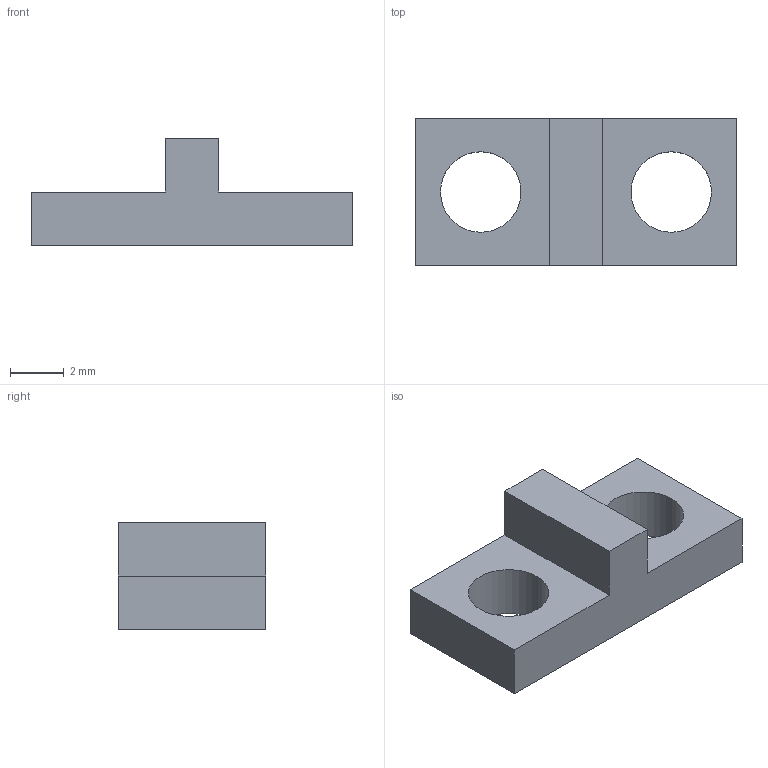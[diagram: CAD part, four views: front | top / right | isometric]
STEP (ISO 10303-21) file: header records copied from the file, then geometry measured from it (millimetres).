
FILE_DESCRIPTION (( 'STEP AP203' ), '1' );
FILE_NAME ('METAL_BAR_FIXING_COVER.STEP', '2021-09-09T14:25:17', ( '' ), ( '' ), 'SwSTEP 2.0', 'SolidWorks 2020', '' );
FILE_SCHEMA (( 'CONFIG_CONTROL_DESIGN' ));
Length unit declared in the file: millimetre
Products named in the file (1): METAL_BAR_FIXING_COVER
Bounding box: 12 x 5.5 x 4 mm (x, y, z)
Volume: 125.7 mm3; surface area: 241.4 mm2
Topology: 1 solids, 1 shells, 14 faces, 36 edges, 24 vertices
Faces by surface type: plane 10, cylinder 4
Entity records: 513 total; most frequent: CARTESIAN_POINT 75, DIRECTION 74, ORIENTED_EDGE 72, EDGE_CURVE 36, VECTOR 28, LINE 28, VERTEX_POINT 24, AXIS2_PLACEMENT_3D 23
